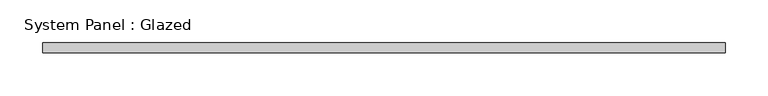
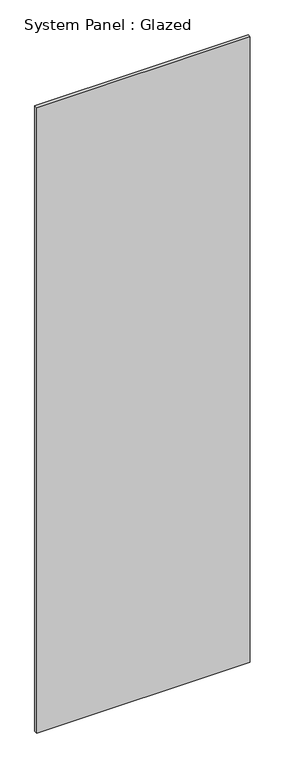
"""IFC4 building model written with IfcOpenShell, lengths in millimetres: plate geometry, System Panel : Glazed."""

import ifcopenshell
import ifcopenshell.guid

model = None  # the IFC model being written
_history = None  # IfcOwnerHistory: only IFC2X3 demands one
_inside = {}  # id of a spatial element -> (the spatial element, [elements in it])
_under = {}  # id of a project, library or spatial element -> (it, [spatial elements below it])
_declared = {}  # id of a project -> (the project, [libraries it declares])
_typed = {}  # id of a type object -> (the type object, [elements of that type])
_made_of = {}  # id of a material, layer set ... -> (it, [elements and type objects made of it])


def new_model(schema):
    """Start an empty IFC model of exactly this schema.

    Asked for "IFC4X3", IfcOpenShell would pick the latest addendum, in which some entities
    have other attributes; the version numbers below select the first issue.
    IFC2X3 requires an IfcOwnerHistory on every rooted entity: one is made here for all.
    """
    global model, _history
    if schema == "IFC4X3":
        model = ifcopenshell.file(schema_version=(4, 3, 0, 0))
    else:
        model = ifcopenshell.file(schema=schema)
    _inside.clear()
    _under.clear()
    _declared.clear()
    _typed.clear()
    _made_of.clear()
    _history = None
    if model.schema == "IFC2X3":
        org = make("IfcOrganization", Name="unknown")
        user = make(
            "IfcPersonAndOrganization",
            ThePerson=make("IfcPerson", FamilyName="unknown"),
            TheOrganization=org,
        )
        app = make(
            "IfcApplication",
            ApplicationDeveloper=org,
            Version="unknown",
            ApplicationFullName="unknown",
            ApplicationIdentifier="unknown",
        )
        _history = make(
            "IfcOwnerHistory",
            OwningUser=user,
            OwningApplication=app,
            ChangeAction="ADDED",
            CreationDate=0,
        )
    return model


def make(cls, **values):
    """One entity of the class cls with the attributes given. An attribute that is None is left unset."""
    return model.create_entity(
        cls, **{name: value for name, value in values.items() if value is not None}
    )


def rooted(cls, **values):
    """An entity with a GlobalId (a new one), such as an element, a storey or a relation."""
    return make(cls, GlobalId=ifcopenshell.guid.new(), OwnerHistory=_history, **values)


def si_unit(unit_type, name, prefix=None):
    """IfcSIUnit, for example si_unit("LENGTHUNIT", "METRE", prefix="MILLI")."""
    return make("IfcSIUnit", UnitType=unit_type, Prefix=prefix, Name=name)


def assignment(units):
    """IfcUnitAssignment: the units of a project."""
    return None if units is None else make("IfcUnitAssignment", Units=units)


def point(xyz):
    """IfcCartesianPoint."""
    return None if xyz is None else make("IfcCartesianPoint", Coordinates=xyz)


def direction(xyz):
    """IfcDirection."""
    return None if xyz is None else make("IfcDirection", DirectionRatios=xyz)


def frame(location, z_axis=None, x_axis=None):
    """IfcAxis2Placement3D, a coordinate frame: its origin and axes. An axis left out is left unset."""
    return make(
        "IfcAxis2Placement3D",
        Location=point(location),
        Axis=direction(z_axis),
        RefDirection=direction(x_axis),
    )


def origin():
    """The frame at (0, 0, 0) with its axes left unset."""
    return frame((0.0, 0.0, 0.0))


def origin_with_axes():
    """The frame at (0, 0, 0) with the z axis (0, 0, 1) and the x axis (1, 0, 0) written out."""
    return frame((0.0, 0.0, 0.0), z_axis=(0.0, 0.0, 1.0), x_axis=(1.0, 0.0, 0.0))


def place(relative_to, where):
    """IfcLocalPlacement: puts the frame where relative to a parent placement (None: the world)."""
    return make(
        "IfcLocalPlacement", PlacementRelTo=relative_to, RelativePlacement=where
    )


def context(
    kind, dimensions, precision=None, world=None, true_north=None, identifier=None
):
    """IfcGeometricRepresentationContext, for example the 3D "Model" context."""
    return make(
        "IfcGeometricRepresentationContext",
        ContextIdentifier=identifier,
        ContextType=kind,
        CoordinateSpaceDimension=dimensions,
        Precision=precision,
        WorldCoordinateSystem=world,
        TrueNorth=true_north,
    )


def project(units=None, contexts=None):
    """IfcProject with its units and contexts."""
    return rooted(
        "IfcProject",
        Name="project",
        RepresentationContexts=contexts,
        UnitsInContext=assignment(units),
    )


def spatial(cls, under=None, at=None, **own):
    """A site, building, storey or space (cls), placed at a placement, below another one or the project."""
    s = rooted(cls, ObjectPlacement=at, **own)
    if under is not None:
        _under.setdefault(under.id(), (under, []))[1].append(s)
    return s


def polyline(points):
    """IfcPolyline through the points."""
    return make("IfcPolyline", Points=[point(p) for p in points])


def outline(outer, holes=None, kind="AREA"):
    """IfcArbitraryClosedProfileDef: a profile drawn as a closed curve; with holes, ...WithVoids."""
    if holes is None:
        return make("IfcArbitraryClosedProfileDef", ProfileType=kind, OuterCurve=outer)
    return make(
        "IfcArbitraryProfileDefWithVoids",
        ProfileType=kind,
        OuterCurve=outer,
        InnerCurves=holes,
    )


def extrude(swept, where, along, depth):
    """IfcExtrudedAreaSolid: the profile swept, set in the frame where, extruded along a direction by depth."""
    return make(
        "IfcExtrudedAreaSolid",
        SweptArea=swept,
        Position=where,
        ExtrudedDirection=direction(along),
        Depth=depth,
    )


def shape(context_of_items, identifier, shape_type, items):
    """IfcShapeRepresentation: the items that make up one representation, for example the "Body"."""
    return make(
        "IfcShapeRepresentation",
        ContextOfItems=context_of_items,
        RepresentationIdentifier=identifier,
        RepresentationType=shape_type,
        Items=items,
    )


def source(mapping_origin, context_of_items, identifier, shape_type, items):
    """IfcRepresentationMap: a shape defined once, which mapped items show again and again."""
    return make(
        "IfcRepresentationMap",
        MappingOrigin=mapping_origin,
        MappedRepresentation=shape(context_of_items, identifier, shape_type, items),
    )


def transform(
    local_origin,
    x_axis=None,
    y_axis=None,
    z_axis=None,
    scale=None,
    scale2=None,
    scale3=None,
    uniform=True,
):
    """IfcCartesianTransformationOperator3D, or its non-uniform kind. x_axis, y_axis, z_axis: its Axis1, 2, 3."""
    if uniform:
        return make(
            "IfcCartesianTransformationOperator3D",
            Axis1=direction(x_axis),
            Axis2=direction(y_axis),
            LocalOrigin=point(local_origin),
            Scale=scale,
            Axis3=direction(z_axis),
        )
    return make(
        "IfcCartesianTransformationOperator3DnonUniform",
        Axis1=direction(x_axis),
        Axis2=direction(y_axis),
        LocalOrigin=point(local_origin),
        Scale=scale,
        Axis3=direction(z_axis),
        Scale2=scale2,
        Scale3=scale3,
    )


def mapped(mapping_source, mapping_target):
    """IfcMappedItem: shows the shape of a source again, moved by a transform."""
    return make(
        "IfcMappedItem", MappingSource=mapping_source, MappingTarget=mapping_target
    )


def made_of(thing, what):
    """Note that an element or type object is made of a material, layer set ...; save() writes the relation."""
    if what is not None:
        _made_of.setdefault(what.id(), (what, []))[1].append(thing)
    return thing


def element(
    cls,
    number,
    at=None,
    inside=None,
    cuts=None,
    type_object=None,
    material=None,
    context=None,
    identifier="Body",
    shape_type=None,
    held_by="IfcProductDefinitionShape",
    body=None,
    shapes=None,
    **own,
):
    """One element of the class cls, such as IfcWall. Its Tag is "e" and its number.

    at: its placement. inside: the storey or other place that contains it. cuts: it is an
    opening in that element (IfcRelVoidsElement). A single representation is given by context,
    identifier, shape_type and body (its items); several are given by shapes. held_by: the class
    of the entity that holds the representations. save() writes the other relations.
    """
    e = rooted(cls, Tag="e%d" % number, ObjectPlacement=at, **own)
    if body is not None:
        shapes = [shape(context, identifier, shape_type, body)]
    if shapes is not None:
        e.Representation = make(held_by, Representations=shapes)
    if inside is not None:
        _inside.setdefault(inside.id(), (inside, []))[1].append(e)
    if cuts is not None:
        rooted(
            "IfcRelVoidsElement", RelatingBuildingElement=cuts, RelatedOpeningElement=e
        )
    if type_object is not None:
        _typed.setdefault(type_object.id(), (type_object, []))[1].append(e)
    return made_of(e, material)


def aggregate(whole, parts):
    """IfcRelAggregates: a whole, such as a stair, and the parts it consists of."""
    return rooted("IfcRelAggregates", RelatingObject=whole, RelatedObjects=parts)


def save(model, path):
    """Write the relations noted so far, then the file.

    IfcRelAggregates (storeys below a building ...), IfcRelContainedInSpatialStructure (elements
    in a storey), IfcRelDefinesByType, IfcRelAssociatesMaterial and IfcRelDeclares: one each for
    every whole, place, type object, material and project.
    """
    for whole, parts in _under.values():
        aggregate(whole, parts)
    for where, things in _inside.values():
        rooted(
            "IfcRelContainedInSpatialStructure",
            RelatedElements=things,
            RelatingStructure=where,
        )
    for kind, things in _typed.values():
        rooted("IfcRelDefinesByType", RelatedObjects=things, RelatingType=kind)
    for what, things in _made_of.values():
        rooted("IfcRelAssociatesMaterial", RelatedObjects=things, RelatingMaterial=what)
    for by, libraries in _declared.values():
        rooted("IfcRelDeclares", RelatingContext=by, RelatedDefinitions=libraries)
    model.write(path)


def system_panel_glazed_f5efb3f4(model_context):
    return source(origin(), model_context, "Body", "SweptSolid", [
        extrude(outline(polyline([(400.0, 4.0), (-400.0, 4.0), (-400.0, 16.0), (400.0, 16.0), (400.0, 4.0)])), origin_with_axes(), (0.0, 0.0, 1.0), 2475.6124286),
    ])


if __name__ == "__main__":
    model = new_model("IFC4")
    model_context = context("Model", 3, world=origin())
    ifc_project = project(units=[si_unit("LENGTHUNIT", "METRE", prefix="MILLI")], contexts=[model_context])
    site = spatial("IfcSite", under=ifc_project)
    building = spatial("IfcBuilding", under=site)
    placement = place(None, origin())
    system_panel_glazed_shape = system_panel_glazed_f5efb3f4(model_context)
    element("IfcPlate", 1, ObjectType="System Panel : Glazed", at=placement, inside=building, context=model_context, shape_type="MappedRepresentation", body=[
        mapped(system_panel_glazed_shape, transform((0.0, 0.0, 0.0), x_axis=(1.0, 0.0, 0.0), y_axis=(0.0, 1.0, 0.0), z_axis=(0.0, 0.0, 1.0))),
    ])
    save(model, "model.ifc")
